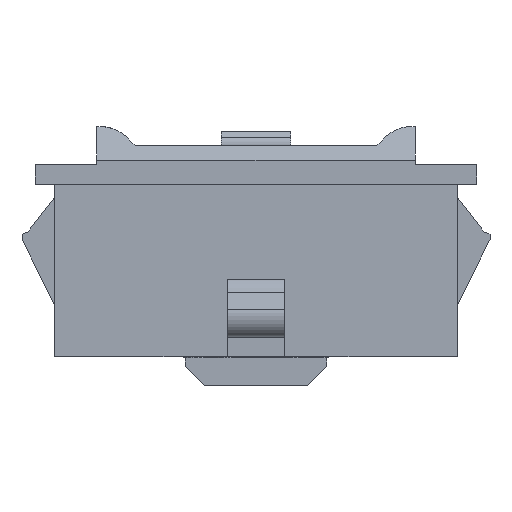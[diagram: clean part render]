
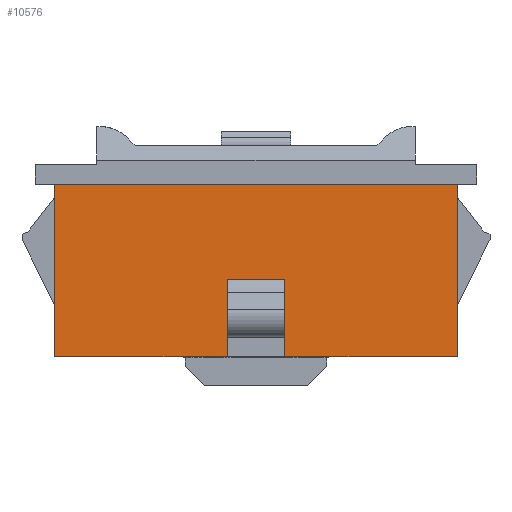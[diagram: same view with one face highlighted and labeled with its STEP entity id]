
A CAD part, left-side view. The second image highlights one B-rep face of the part: STEP entity #10576.
In plain terms, the highlighted planar face has unit normal (-1, 0, 0).
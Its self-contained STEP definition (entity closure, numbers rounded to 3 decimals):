
#6981=CARTESIAN_POINT(' ',(-8.25,1.5,-9.));
#6982=VERTEX_POINT(' ',#6981);
#6996=CARTESIAN_POINT(' ',(-8.25,10.5,-9.));
#7001=DIRECTION(' ',(0.,-1.,0.));
#7006=VECTOR(' ',#7001,1.);
#7011=LINE('',#6996,#7006);
#7016=CARTESIAN_POINT(' ',(-8.25,10.5,-9.));
#7017=VERTEX_POINT(' ',#7016);
#7021=EDGE_CURVE(' ',#7017,#6982,#7011,.T.);
#7121=CARTESIAN_POINT(' ',(-8.25,-10.5,-9.));
#7122=VERTEX_POINT(' ',#7121);
#7136=CARTESIAN_POINT(' ',(-8.25,-1.5,-9.));
#7141=DIRECTION(' ',(0.,-1.,0.));
#7146=VECTOR(' ',#7141,1.);
#7151=LINE('',#7136,#7146);
#7156=CARTESIAN_POINT(' ',(-8.25,-1.5,-9.));
#7157=VERTEX_POINT(' ',#7156);
#7161=EDGE_CURVE(' ',#7157,#7122,#7151,.T.);
#10161=CARTESIAN_POINT(' ',(-8.25,1.5,-5.));
#10162=VERTEX_POINT(' ',#10161);
#10176=CARTESIAN_POINT(' ',(-8.25,1.5,-5.));
#10181=DIRECTION(' ',(0.,0.,-1.));
#10186=VECTOR(' ',#10181,1.);
#10191=LINE('',#10176,#10186);
#10196=EDGE_CURVE(' ',#10162,#6982,#10191,.T.);
#10361=DIRECTION(' ',(-1.,0.,0.));
#10366=CARTESIAN_POINT(' ',(-8.25,10.5,-9.));
#10371=DIRECTION(' ',(0.,-1.,0.));
#10376=AXIS2_PLACEMENT_3D(' ',#10366,#10361,#10371);
#10381=PLANE('',#10376);
#10386=ORIENTED_EDGE(' ',*,*,#10196,.F.);
#10391=CARTESIAN_POINT(' ',(-8.25,-1.5,-5.));
#10396=DIRECTION(' ',(0.,1.,0.));
#10401=VECTOR(' ',#10396,1.);
#10406=LINE('',#10391,#10401);
#10411=CARTESIAN_POINT(' ',(-8.25,-1.5,-5.));
#10412=VERTEX_POINT(' ',#10411);
#10416=EDGE_CURVE(' ',#10412,#10162,#10406,.T.);
#10421=ORIENTED_EDGE(' ',*,*,#10416,.F.);
#10426=CARTESIAN_POINT(' ',(-8.25,-1.5,-9.));
#10431=DIRECTION(' ',(0.,0.,1.));
#10436=VECTOR(' ',#10431,1.);
#10441=LINE('',#10426,#10436);
#10446=EDGE_CURVE(' ',#7157,#10412,#10441,.T.);
#10451=ORIENTED_EDGE(' ',*,*,#10446,.F.);
#10456=ORIENTED_EDGE(' ',*,*,#7161,.T.);
#10461=CARTESIAN_POINT(' ',(-8.25,-10.5,-9.));
#10466=DIRECTION(' ',(0.,0.,1.));
#10471=VECTOR(' ',#10466,1.);
#10476=LINE('',#10461,#10471);
#10481=CARTESIAN_POINT(' ',(-8.25,-10.5,0.));
#10482=VERTEX_POINT(' ',#10481);
#10486=EDGE_CURVE(' ',#7122,#10482,#10476,.T.);
#10491=ORIENTED_EDGE(' ',*,*,#10486,.T.);
#10496=CARTESIAN_POINT(' ',(-8.25,10.5,0.));
#10501=DIRECTION(' ',(0.,-1.,0.));
#10506=VECTOR(' ',#10501,1.);
#10511=LINE('',#10496,#10506);
#10516=CARTESIAN_POINT(' ',(-8.25,10.5,0.));
#10517=VERTEX_POINT(' ',#10516);
#10521=EDGE_CURVE(' ',#10517,#10482,#10511,.T.);
#10526=ORIENTED_EDGE(' ',*,*,#10521,.F.);
#10531=CARTESIAN_POINT(' ',(-8.25,10.5,-9.));
#10536=DIRECTION(' ',(0.,0.,1.));
#10541=VECTOR(' ',#10536,1.);
#10546=LINE('',#10531,#10541);
#10551=EDGE_CURVE(' ',#7017,#10517,#10546,.T.);
#10556=ORIENTED_EDGE(' ',*,*,#10551,.F.);
#10561=ORIENTED_EDGE(' ',*,*,#7021,.T.);
#10566=EDGE_LOOP(' ',(#10386,#10421,#10451,#10456,#10491,#10526,#10556,#10561));
#10571=FACE_OUTER_BOUND(' ',#10566,.T.);
#10576=ADVANCED_FACE('',(#10571),#10381,.T.);
